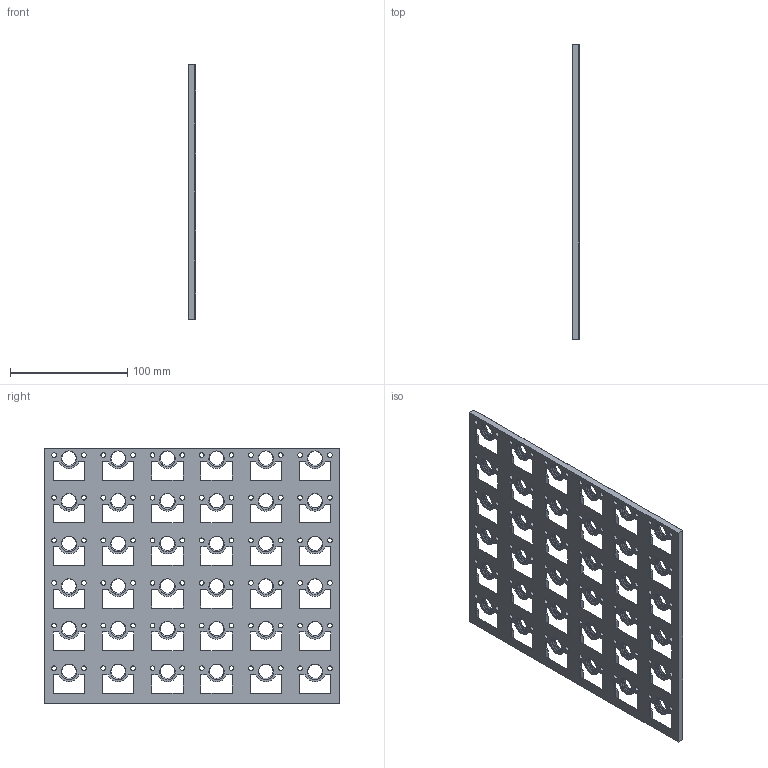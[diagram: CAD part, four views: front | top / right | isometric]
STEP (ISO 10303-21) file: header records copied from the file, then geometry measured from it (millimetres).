
FILE_DESCRIPTION(/* description */ ('','CAx-IF Rec.Pracs.---Representation and Presentation of Product Manufacturing Information (PMI)---4.0---2014-10-13'),/* implementation_level */ '2;1');
FILE_NAME(/* name */ 'Goews Grid 36H Tile 6x6.step',/* time_stamp */ '2025-01-03T09:33:10-05:00',/* author */ (''),/* organization */ (''),/* preprocessor_version */ 'ST-DEVELOPER v20',/* originating_system */ 'Autodesk Translation Framework v13.20.0.188',/* authorisation */ '');
FILE_SCHEMA (('AP242_MANAGED_MODEL_BASED_3D_ENGINEERING_MIM_LF { 1 0 10303 442 1 1 4 }'));
Products named in the file (1): Goews Grid 36H TileMaker
Bounding box: 6 x 252 x 218.24 mm (x, y, z)
Volume: 168877.5 mm3; surface area: 118451.3 mm2
Topology: 1 solids, 1 shells, 1553 faces, 4196 edges, 2645 vertices
Faces by surface type: plane 905, cylinder 468, cone 108, bspline 72
Full cylindrical faces by diameter (mm): 4 x72, 8 x72, 12.322 x72, 14.55 x72
Entity records: 90471 total; most frequent: CARTESIAN_POINT 52459, ORIENTED_EDGE 8392, DIRECTION 6908, EDGE_CURVE 4196, LINE 2792, VECTOR 2792, VERTEX_POINT 2645, AXIS2_PLACEMENT_3D 2058
